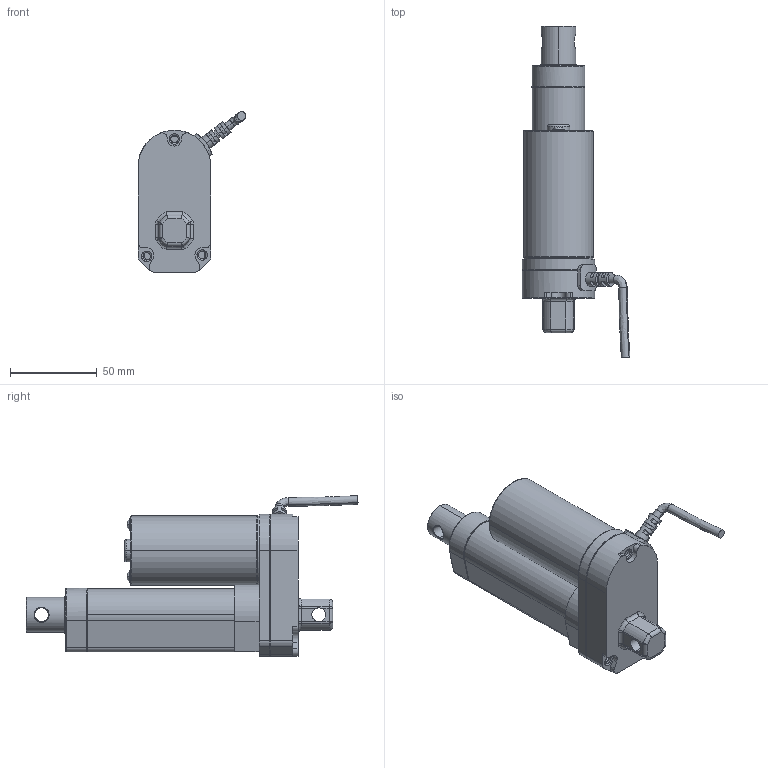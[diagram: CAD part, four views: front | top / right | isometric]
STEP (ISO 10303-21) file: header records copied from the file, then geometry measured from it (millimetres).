
FILE_DESCRIPTION (( 'STEP AP203' ), '1' );
FILE_NAME ('LD3-Standard.STEP', '2022-08-10T02:00:23', ( '' ), ( '' ), 'SwSTEP 2.0', 'SolidWorks 2020', '' );
FILE_SCHEMA (( 'CONFIG_CONTROL_DESIGN' ));
Length unit declared in the file: millimetre
Products named in the file (12): 標準管組; LD3-防水SR; LD3-Standard; 外管墊片_1; Tube; 下蓋墊片_1; 防水油封; Gear Box_2; 簡易馬達_1; 簡易外管; 簡易導向套; Top_1
Assembly tree (11 placements, depth 3):
  LD3-Standard
    Gear Box_2
    簡易馬達_1
    下蓋墊片_1
    Top_1
    LD3-防水SR
    標準管組
      簡易外管
      外管墊片_1
      簡易導向套
      防水油封
      Tube
Bounding box: 62.27 x 191.62 x 92.72 mm (x, y, z)
Volume: 163618.9 mm3; surface area: 83206 mm2
Topology: 10 solids, 10 shells, 499 faces, 1293 edges, 837 vertices
Faces by surface type: plane 218, cylinder 211, bspline 42, cone 28
Entity records: 23410 total; most frequent: CARTESIAN_POINT 9947, ORIENTED_EDGE 2578, DIRECTION 2562, EDGE_CURVE 1289, AXIS2_PLACEMENT_3D 938, VERTEX_POINT 837, LINE 686, VECTOR 686
